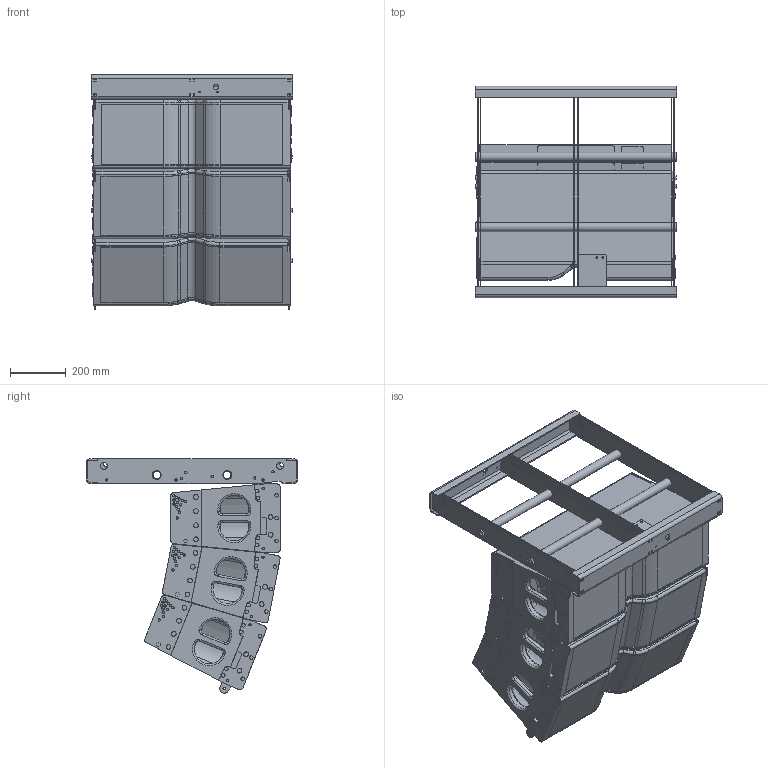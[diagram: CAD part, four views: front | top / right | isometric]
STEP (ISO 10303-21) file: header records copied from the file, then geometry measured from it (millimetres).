
FILE_DESCRIPTION(/* description */ (''),/* implementation_level */ '2;1');
FILE_NAME(/* name */ 'LA28 3 Box ARRAY v2.step',/* time_stamp */ '2023-01-21T23:38:35-08:00',/* author */ (''),/* organization */ (''),/* preprocessor_version */ 'ST-DEVELOPER v19.2',/* originating_system */ 'Autodesk Translation Framework v11.17.0.187',/* authorisation */ '');
FILE_SCHEMA (('AUTOMOTIVE_DESIGN { 1 0 10303 214 3 1 1 }'));
Length unit declared in the file: inch
Products named in the file (10): LA28 3 Box ARRAY; LA28 RF1 Sheet Metal Assembly; LA28RF1 Front Rear C Channel^la28RF1 SHEET METAL ASSEMBLY; LA28RF1 Center Bar^la28RF1 SHEET METAL ASSEMBLY; AL28RF1 Outer Bar^la28RF1 SHEET METAL ASSEMBLY; Inclinometer Mount Plate^la28RF1 SHEET METAL ASSEMBLY; Stabilizing Tube^la28RF1 SHEET METAL ASSEMBLY; Rear Connection Arm^la28RF1 SHEET METAL ASSEMBLY; LA18 LA28 Front Connection Tongue^la28RF1 SHEET METAL ASSEMBLY; LA28 TOUR BLOCK
Assembly tree (19 placements, depth 3):
  LA28 3 Box ARRAY
    LA28 RF1 Sheet Metal Assembly
      LA28RF1 Front Rear C Channel^la28RF1 SHEET METAL ASSEMBLY  x2
      LA28RF1 Center Bar^la28RF1 SHEET METAL ASSEMBLY  x2
      AL28RF1 Outer Bar^la28RF1 SHEET METAL ASSEMBLY  x4
      Inclinometer Mount Plate^la28RF1 SHEET METAL ASSEMBLY
      Stabilizing Tube^la28RF1 SHEET METAL ASSEMBLY  x2
      Rear Connection Arm^la28RF1 SHEET METAL ASSEMBLY  x2
      LA18 LA28 Front Connection Tongue^la28RF1 SHEET METAL ASSEMBLY  x2
    LA28 TOUR BLOCK  x3
Bounding box: 726.62 x 762 x 844.21 mm (x, y, z)
Volume: 175338406.7 mm3; surface area: 5296735.8 mm2
Topology: 18 solids, 18 shells, 1889 faces, 4851 edges, 3130 vertices
Faces by surface type: plane 905, cylinder 804, torus 162, bspline 18
Full cylindrical faces by diameter (mm): 6.35 x4, 8.319 x18, 8.382 x204, 8.7 x6, 13 x42, 16.51 x52, 17 x36, 19.05 x2, 22.86 x2, 25.4 x8, 27.178 x2, 31.75 x2, 32.004 x12
Entity records: 22773 total; most frequent: CARTESIAN_POINT 4176, DIRECTION 3922, ORIENTED_EDGE 3624, EDGE_CURVE 1812, AXIS2_PLACEMENT_3D 1402, VERTEX_POINT 1168, LINE 1118, VECTOR 1118
